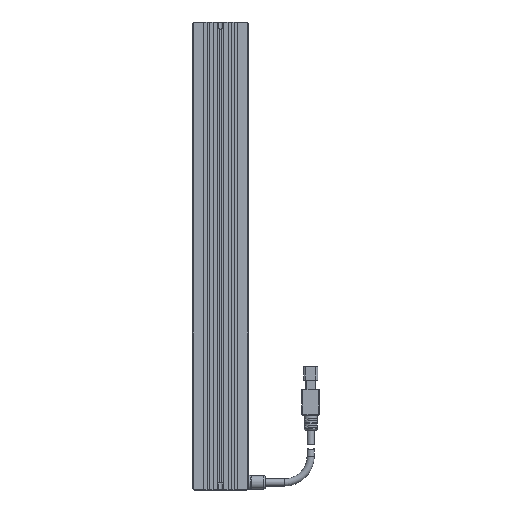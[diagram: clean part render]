
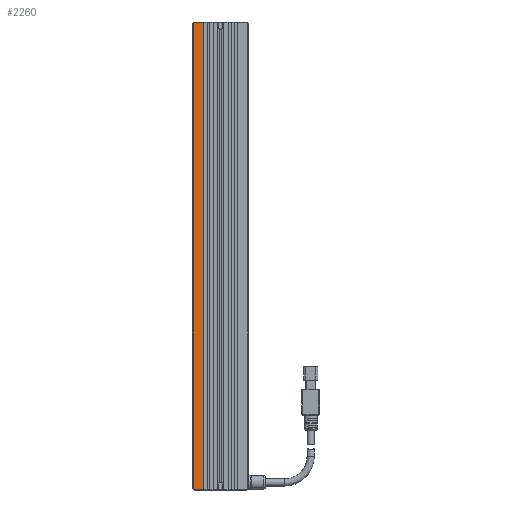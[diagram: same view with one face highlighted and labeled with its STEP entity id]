
A CAD part, top view. The second image highlights one B-rep face of the part: STEP entity #2260.
In plain terms, the highlighted planar face has unit normal (0, 0, 1).
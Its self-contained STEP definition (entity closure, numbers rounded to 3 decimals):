
#408 = CARTESIAN_POINT ( 'NONE',  ( -16., -133., 12.5 ) ) ;
#472 = DIRECTION ( 'NONE',  ( 0.707, -0.707, 0. ) ) ;
#488 = EDGE_CURVE ( 'NONE', #4480, #4733, #13479, .T. ) ;
#933 = EDGE_CURVE ( 'NONE', #12916, #7452, #3550, .T. ) ;
#1272 = ORIENTED_EDGE ( 'NONE', *, *, #9537, .F. ) ;
#1929 = EDGE_LOOP ( 'NONE', ( #17562, #14026, #1959, #2117, #14363, #1272 ) ) ;
#1959 = ORIENTED_EDGE ( 'NONE', *, *, #3351, .T. ) ;
#2117 = ORIENTED_EDGE ( 'NONE', *, *, #11200, .T. ) ;
#2227 = VECTOR ( 'NONE', #2413, 1000. ) ;
#2260 = ADVANCED_FACE ( 'NONE', ( #18285 ), #6270, .F. ) ;
#2413 = DIRECTION ( 'NONE',  ( 0., -1., 0. ) ) ;
#2580 = LINE ( 'NONE', #408, #9880 ) ;
#3226 = VECTOR ( 'NONE', #10566, 1000. ) ;
#3351 = EDGE_CURVE ( 'NONE', #7452, #11573, #10078, .T. ) ;
#3468 = DIRECTION ( 'NONE',  ( 1., 0., 0. ) ) ;
#3550 = LINE ( 'NONE', #16211, #8642 ) ;
#4306 = AXIS2_PLACEMENT_3D ( 'NONE', #4709, #17427, #10584 ) ;
#4480 = VERTEX_POINT ( 'NONE', #9363 ) ;
#4709 = CARTESIAN_POINT ( 'NONE',  ( -15.5, 134., 12.5 ) ) ;
#4733 = VERTEX_POINT ( 'NONE', #16930 ) ;
#6260 = CARTESIAN_POINT ( 'NONE',  ( -15., 134., 12.5 ) ) ;
#6270 = PLANE ( 'NONE',  #4306 ) ;
#6867 = LINE ( 'NONE', #9156, #17213 ) ;
#7452 = VERTEX_POINT ( 'NONE', #14434 ) ;
#8642 = VECTOR ( 'NONE', #9315, 1000. ) ;
#8984 = VERTEX_POINT ( 'NONE', #17847 ) ;
#9156 = CARTESIAN_POINT ( 'NONE',  ( -15.5, 134., 12.5 ) ) ;
#9315 = DIRECTION ( 'NONE',  ( -0.707, -0.707, 0. ) ) ;
#9363 = CARTESIAN_POINT ( 'NONE',  ( -15., -134., 12.5 ) ) ;
#9537 = EDGE_CURVE ( 'NONE', #8984, #4733, #13013, .T. ) ;
#9880 = VECTOR ( 'NONE', #472, 1000. ) ;
#10078 = LINE ( 'NONE', #11972, #3226 ) ;
#10566 = DIRECTION ( 'NONE',  ( 0., -1., 0. ) ) ;
#10584 = DIRECTION ( 'NONE',  ( -1., 0., 0. ) ) ;
#10808 = CARTESIAN_POINT ( 'NONE',  ( -9.7, 134., 12.5 ) ) ;
#10933 = CARTESIAN_POINT ( 'NONE',  ( -15.5, -134., 12.5 ) ) ;
#11200 = EDGE_CURVE ( 'NONE', #11573, #4480, #2580, .T. ) ;
#11573 = VERTEX_POINT ( 'NONE', #16798 ) ;
#11972 = CARTESIAN_POINT ( 'NONE',  ( -15.5, 134., 12.5 ) ) ;
#12916 = VERTEX_POINT ( 'NONE', #6260 ) ;
#13013 = LINE ( 'NONE', #10808, #2227 ) ;
#13479 = LINE ( 'NONE', #10933, #15895 ) ;
#14026 = ORIENTED_EDGE ( 'NONE', *, *, #933, .T. ) ;
#14363 = ORIENTED_EDGE ( 'NONE', *, *, #488, .T. ) ;
#14434 = CARTESIAN_POINT ( 'NONE',  ( -15.5, 133.5, 12.5 ) ) ;
#15895 = VECTOR ( 'NONE', #18015, 1000. ) ;
#16211 = CARTESIAN_POINT ( 'NONE',  ( -15., 134., 12.5 ) ) ;
#16612 = EDGE_CURVE ( 'NONE', #12916, #8984, #6867, .T. ) ;
#16798 = CARTESIAN_POINT ( 'NONE',  ( -15.5, -133.5, 12.5 ) ) ;
#16930 = CARTESIAN_POINT ( 'NONE',  ( -9.7, -134., 12.5 ) ) ;
#17213 = VECTOR ( 'NONE', #3468, 1000. ) ;
#17427 = DIRECTION ( 'NONE',  ( 0., 0., -1. ) ) ;
#17562 = ORIENTED_EDGE ( 'NONE', *, *, #16612, .F. ) ;
#17847 = CARTESIAN_POINT ( 'NONE',  ( -9.7, 134., 12.5 ) ) ;
#18015 = DIRECTION ( 'NONE',  ( 1., 0., 0. ) ) ;
#18285 = FACE_OUTER_BOUND ( 'NONE', #1929, .T. ) ;
